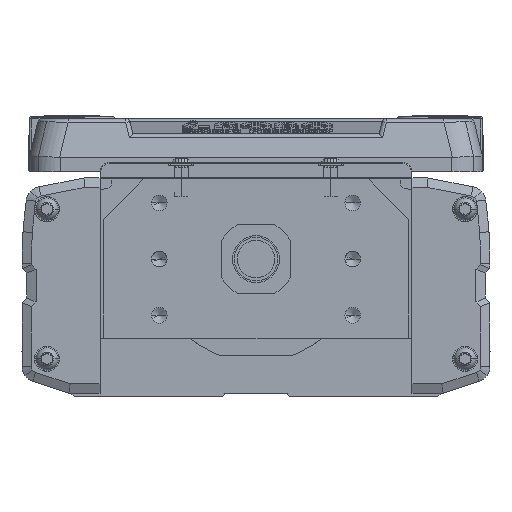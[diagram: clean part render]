
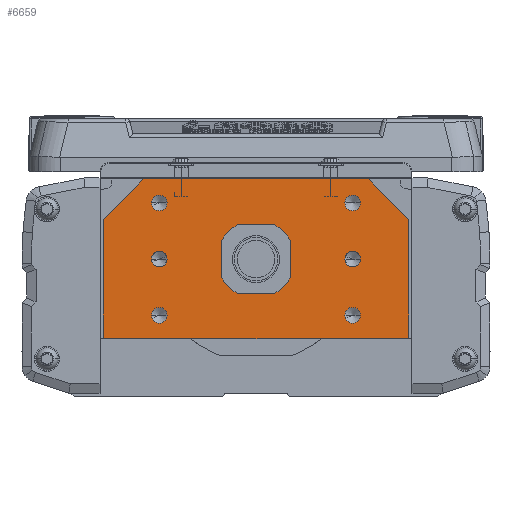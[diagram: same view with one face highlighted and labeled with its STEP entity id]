
A CAD part, left-side view. The second image highlights one B-rep face of the part: STEP entity #6659.
In plain terms, the highlighted planar face has unit normal (-1, 0, 0).
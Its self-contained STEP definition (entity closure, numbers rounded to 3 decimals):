
#6659=ADVANCED_FACE('',(#13666,#13667,#13668,#13669,#13670,#13671,#13672,#13673),#13674,.F.);
#13666=FACE_OUTER_BOUND('',#22330,.T.);
#13667=FACE_BOUND('',#22331,.T.);
#13668=FACE_BOUND('',#22332,.T.);
#13669=FACE_BOUND('',#22333,.T.);
#13670=FACE_BOUND('',#22334,.T.);
#13671=FACE_BOUND('',#22335,.T.);
#13672=FACE_BOUND('',#22336,.T.);
#13673=FACE_BOUND('',#22337,.T.);
#13674=PLANE('',#22338);
#22330=EDGE_LOOP('',(#41234,#41235,#41236,#41237,#41238,#41239,#41240,#41241));
#22331=EDGE_LOOP('',(#41242,#41243));
#22332=EDGE_LOOP('',(#41244,#41245));
#22333=EDGE_LOOP('',(#41246,#41247));
#22334=EDGE_LOOP('',(#41248,#41249));
#22335=EDGE_LOOP('',(#41250,#41251));
#22336=EDGE_LOOP('',(#41252,#41253));
#22337=EDGE_LOOP('',(#41254,#41255));
#22338=AXIS2_PLACEMENT_3D('',#41256,#41257,#41258);
#41234=ORIENTED_EDGE('',*,*,#49153,.F.);
#41235=ORIENTED_EDGE('',*,*,#48842,.F.);
#41236=ORIENTED_EDGE('',*,*,#48550,.F.);
#41237=ORIENTED_EDGE('',*,*,#45871,.F.);
#41238=ORIENTED_EDGE('',*,*,#49945,.F.);
#41239=ORIENTED_EDGE('',*,*,#43925,.F.);
#41240=ORIENTED_EDGE('',*,*,#46718,.F.);
#41241=ORIENTED_EDGE('',*,*,#50740,.F.);
#41242=ORIENTED_EDGE('',*,*,#46964,.T.);
#41243=ORIENTED_EDGE('',*,*,#44409,.T.);
#41244=ORIENTED_EDGE('',*,*,#49079,.T.);
#41245=ORIENTED_EDGE('',*,*,#48918,.T.);
#41246=ORIENTED_EDGE('',*,*,#48822,.T.);
#41247=ORIENTED_EDGE('',*,*,#47395,.T.);
#41248=ORIENTED_EDGE('',*,*,#46916,.T.);
#41249=ORIENTED_EDGE('',*,*,#50748,.T.);
#41250=ORIENTED_EDGE('',*,*,#45688,.T.);
#41251=ORIENTED_EDGE('',*,*,#44794,.T.);
#41252=ORIENTED_EDGE('',*,*,#47791,.T.);
#41253=ORIENTED_EDGE('',*,*,#50734,.T.);
#41254=ORIENTED_EDGE('',*,*,#50751,.F.);
#41255=ORIENTED_EDGE('',*,*,#47474,.F.);
#41256=CARTESIAN_POINT('',(0.,0.275,-2.548));
#41257=DIRECTION('',(1.0,0.,0.));
#41258=DIRECTION('',(0.,1.0,0.));
#43925=EDGE_CURVE('',#52082,#52085,#52086,.T.);
#44409=EDGE_CURVE('',#52950,#52948,#52951,.T.);
#44794=EDGE_CURVE('',#53621,#53619,#53622,.T.);
#45688=EDGE_CURVE('',#53619,#53621,#55134,.T.);
#45871=EDGE_CURVE('',#55430,#55432,#55433,.T.);
#46718=EDGE_CURVE('',#56784,#52082,#56785,.T.);
#46916=EDGE_CURVE('',#57096,#57100,#57102,.T.);
#46964=EDGE_CURVE('',#52948,#52950,#57178,.T.);
#47395=EDGE_CURVE('',#57823,#57821,#57824,.T.);
#47474=EDGE_CURVE('',#57950,#57952,#57953,.F.);
#47791=EDGE_CURVE('',#58406,#58409,#58411,.T.);
#48550=EDGE_CURVE('',#55432,#59538,#59539,.T.);
#48822=EDGE_CURVE('',#57821,#57823,#59937,.T.);
#48842=EDGE_CURVE('',#59538,#59962,#59964,.T.);
#48918=EDGE_CURVE('',#60080,#60078,#60081,.T.);
#49079=EDGE_CURVE('',#60078,#60080,#60300,.T.);
#49153=EDGE_CURVE('',#59962,#60389,#60390,.T.);
#49945=EDGE_CURVE('',#52085,#55430,#61449,.T.);
#50734=EDGE_CURVE('',#58409,#58406,#62390,.T.);
#50740=EDGE_CURVE('',#60389,#56784,#62396,.T.);
#50748=EDGE_CURVE('',#57100,#57096,#62404,.T.);
#50751=EDGE_CURVE('',#57952,#57950,#62407,.F.);
#52082=VERTEX_POINT('',#63982);
#52085=VERTEX_POINT('',#63986);
#52086=LINE('',#63987,#63988);
#52948=VERTEX_POINT('',#65236);
#52950=VERTEX_POINT('',#65239);
#52951=CIRCLE('',#65240,2.5);
#53619=VERTEX_POINT('',#66256);
#53621=VERTEX_POINT('',#66259);
#53622=CIRCLE('',#66260,2.5);
#55134=CIRCLE('',#68404,2.5);
#55430=VERTEX_POINT('',#68819);
#55432=VERTEX_POINT('',#68822);
#55433=LINE('',#68823,#68824);
#56784=VERTEX_POINT('',#70737);
#56785=LINE('',#70738,#70739);
#57096=VERTEX_POINT('',#71248);
#57100=VERTEX_POINT('',#71253);
#57102=CIRCLE('',#71256,2.5);
#57178=CIRCLE('',#71358,2.5);
#57821=VERTEX_POINT('',#72272);
#57823=VERTEX_POINT('',#72275);
#57824=CIRCLE('',#72276,2.5);
#57950=VERTEX_POINT('',#72478);
#57952=VERTEX_POINT('',#72481);
#57953=CIRCLE('',#72482,7.5);
#58406=VERTEX_POINT('',#73184);
#58409=VERTEX_POINT('',#73188);
#58411=CIRCLE('',#73191,2.5);
#59538=VERTEX_POINT('',#74834);
#59539=LINE('',#74835,#74836);
#59937=CIRCLE('',#75467,2.5);
#59962=VERTEX_POINT('',#75500);
#59964=LINE('',#75503,#75504);
#60078=VERTEX_POINT('',#75651);
#60080=VERTEX_POINT('',#75654);
#60081=CIRCLE('',#75655,2.5);
#60300=CIRCLE('',#75942,2.5);
#60389=VERTEX_POINT('',#76106);
#60390=LINE('',#76107,#76108);
#61449=LINE('',#77999,#78000);
#62390=CIRCLE('',#79399,2.5);
#62396=LINE('',#79405,#79406);
#62404=CIRCLE('',#79417,2.5);
#62407=CIRCLE('',#79420,7.5);
#63982=CARTESIAN_POINT('',(0.,-49.,12.7));
#63986=CARTESIAN_POINT('',(0.,-49.,-25.));
#63987=CARTESIAN_POINT('',(0.,-49.,-14.));
#63988=VECTOR('',#81238,10.0);
#65236=CARTESIAN_POINT('',(0.,33.5,-18.));
#65239=CARTESIAN_POINT('',(0.,28.5,-18.));
#65240=AXIS2_PLACEMENT_3D('',#81891,#81892,#81893);
#66256=CARTESIAN_POINT('',(0.,33.5,0.));
#66259=CARTESIAN_POINT('',(0.,28.5,0.));
#66260=AXIS2_PLACEMENT_3D('',#82405,#82406,#82407);
#68404=AXIS2_PLACEMENT_3D('',#83682,#83683,#83684);
#68819=CARTESIAN_POINT('',(0.,-48.5,-25.5));
#68822=CARTESIAN_POINT('',(0.,48.5,-25.5));
#68823=CARTESIAN_POINT('',(0.,0.,-25.5));
#68824=VECTOR('',#83945,10.0);
#70737=CARTESIAN_POINT('',(0.,-36.,25.7));
#70738=CARTESIAN_POINT('',(0.,-37.243,24.457));
#70739=VECTOR('',#85082,10.0);
#71248=CARTESIAN_POINT('',(0.,-33.5,18.));
#71253=CARTESIAN_POINT('',(0.,-28.5,18.));
#71256=AXIS2_PLACEMENT_3D('',#85323,#85324,#85325);
#71358=AXIS2_PLACEMENT_3D('',#85382,#85383,#85384);
#72272=CARTESIAN_POINT('',(0.,33.5,18.));
#72275=CARTESIAN_POINT('',(0.,28.5,18.));
#72276=AXIS2_PLACEMENT_3D('',#85954,#85955,#85956);
#72478=CARTESIAN_POINT('',(0.,-7.5,0.));
#72481=CARTESIAN_POINT('',(0.,7.5,0.));
#72482=AXIS2_PLACEMENT_3D('',#86065,#86066,#86067);
#73184=CARTESIAN_POINT('',(0.,-33.5,0.));
#73188=CARTESIAN_POINT('',(0.,-28.5,0.));
#73191=AXIS2_PLACEMENT_3D('',#86498,#86499,#86500);
#74834=CARTESIAN_POINT('',(0.,49.,-25.));
#74835=CARTESIAN_POINT('',(0.,48.5,-25.5));
#74836=VECTOR('',#87578,10.0);
#75467=AXIS2_PLACEMENT_3D('',#87971,#87972,#87973);
#75500=CARTESIAN_POINT('',(0.,49.,12.7));
#75503=CARTESIAN_POINT('',(0.,49.,-25.));
#75504=VECTOR('',#87995,10.0);
#75651=CARTESIAN_POINT('',(0.,-33.5,-18.));
#75654=CARTESIAN_POINT('',(0.,-28.5,-18.));
#75655=AXIS2_PLACEMENT_3D('',#88099,#88100,#88101);
#75942=AXIS2_PLACEMENT_3D('',#88305,#88306,#88307);
#76106=CARTESIAN_POINT('',(0.,36.,25.7));
#76107=CARTESIAN_POINT('',(0.,37.381,24.319));
#76108=VECTOR('',#88398,10.);
#77999=CARTESIAN_POINT('',(0.,-49.,-25.));
#78000=VECTOR('',#89468,10.0);
#79399=AXIS2_PLACEMENT_3D('',#90326,#90327,#90328);
#79405=CARTESIAN_POINT('',(0.,34.5,25.7));
#79406=VECTOR('',#90332,10.0);
#79417=AXIS2_PLACEMENT_3D('',#90336,#90337,#90338);
#79420=AXIS2_PLACEMENT_3D('',#90342,#90343,#90344);
#81238=DIRECTION('',(0.,0.,-1.0));
#81891=CARTESIAN_POINT('',(0.,31.,-18.));
#81892=DIRECTION('',(1.0,0.,0.));
#81893=DIRECTION('',(0.,1.0,0.));
#82405=CARTESIAN_POINT('',(0.,31.,0.));
#82406=DIRECTION('',(1.0,0.,0.));
#82407=DIRECTION('',(0.,1.0,0.));
#83682=CARTESIAN_POINT('',(0.,31.,0.));
#83683=DIRECTION('',(1.0,0.,0.));
#83684=DIRECTION('',(0.,1.0,0.));
#83945=DIRECTION('',(0.,1.0,0.));
#85082=DIRECTION('',(0.,-0.707,-0.707));
#85323=CARTESIAN_POINT('',(0.,-31.,18.));
#85324=DIRECTION('',(1.0,0.,0.));
#85325=DIRECTION('',(0.,-1.0,0.));
#85382=CARTESIAN_POINT('',(0.,31.,-18.));
#85383=DIRECTION('',(1.0,0.,0.));
#85384=DIRECTION('',(0.,1.0,0.));
#85954=CARTESIAN_POINT('',(0.,31.,18.));
#85955=DIRECTION('',(1.0,0.,0.));
#85956=DIRECTION('',(0.,1.0,0.));
#86065=CARTESIAN_POINT('',(0.,0.,0.));
#86066=DIRECTION('',(1.0,0.,0.));
#86067=DIRECTION('',(0.,-1.0,0.));
#86498=CARTESIAN_POINT('',(0.,-31.,0.));
#86499=DIRECTION('',(1.0,0.,0.));
#86500=DIRECTION('',(0.,-1.0,0.));
#87578=DIRECTION('',(0.,0.707,0.707));
#87971=CARTESIAN_POINT('',(0.,31.,18.));
#87972=DIRECTION('',(1.0,0.,0.));
#87973=DIRECTION('',(0.,1.0,0.));
#87995=DIRECTION('',(0.,0.,1.0));
#88099=CARTESIAN_POINT('',(0.,-31.,-18.));
#88100=DIRECTION('',(1.0,0.,0.));
#88101=DIRECTION('',(0.,-1.0,0.));
#88305=CARTESIAN_POINT('',(0.,-31.,-18.));
#88306=DIRECTION('',(1.0,0.,0.));
#88307=DIRECTION('',(0.,-1.0,0.));
#88398=DIRECTION('',(0.,-0.707,0.707));
#89468=DIRECTION('',(0.,0.707,-0.707));
#90326=CARTESIAN_POINT('',(0.,-31.,0.));
#90327=DIRECTION('',(1.0,0.,0.));
#90328=DIRECTION('',(0.,-1.0,0.));
#90332=DIRECTION('',(0.,-1.0,0.));
#90336=CARTESIAN_POINT('',(0.,-31.,18.));
#90337=DIRECTION('',(1.0,0.,0.));
#90338=DIRECTION('',(0.,-1.0,0.));
#90342=CARTESIAN_POINT('',(0.,0.,0.));
#90343=DIRECTION('',(1.0,0.,0.));
#90344=DIRECTION('',(0.,-1.0,0.));
